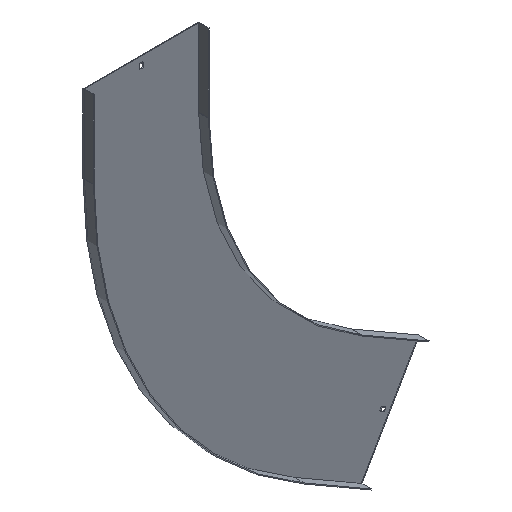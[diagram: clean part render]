
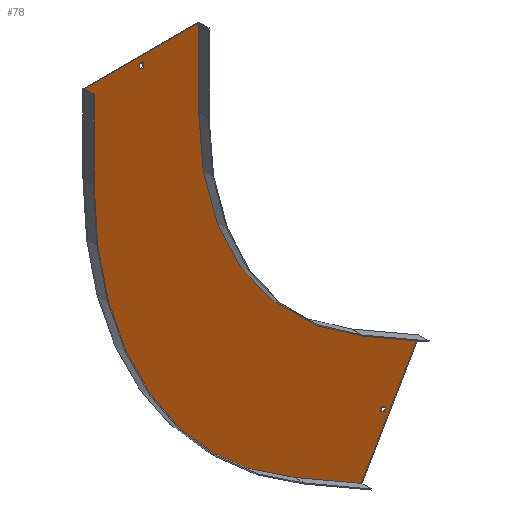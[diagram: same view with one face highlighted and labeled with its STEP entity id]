
A CAD part, isometric view. The second image highlights one B-rep face of the part: STEP entity #78.
In plain terms, the highlighted planar face has unit normal (0, -1, 0).
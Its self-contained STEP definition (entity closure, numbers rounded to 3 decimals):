
#7 = CARTESIAN_POINT ( 'NONE',  ( -405., -1.5, -701.481 ) ) ;
#21 = VERTEX_POINT ( 'NONE', #592 ) ;
#23 = VERTEX_POINT ( 'NONE', #710 ) ;
#28 = CARTESIAN_POINT ( 'NONE',  ( -590., -1.5, 0. ) ) ;
#32 = ORIENTED_EDGE ( 'NONE', *, *, #247, .F. ) ;
#33 = VECTOR ( 'NONE', #802, 1000. ) ;
#38 = ORIENTED_EDGE ( 'NONE', *, *, #188, .F. ) ;
#40 = EDGE_CURVE ( 'NONE', #23, #830, #58, .T. ) ;
#42 = ORIENTED_EDGE ( 'NONE', *, *, #444, .F. ) ;
#44 = VECTOR ( 'NONE', #737, 1000. ) ;
#54 = EDGE_CURVE ( 'NONE', #576, #401, #523, .T. ) ;
#58 = LINE ( 'NONE', #248, #146 ) ;
#62 = CARTESIAN_POINT ( 'NONE',  ( -275.096, -1.5, -776.481 ) ) ;
#78 = ADVANCED_FACE ( 'NONE', ( #454, #665, #237 ), #858, .T. ) ;
#88 = VERTEX_POINT ( 'NONE', #187 ) ;
#104 = DIRECTION ( 'NONE',  ( -1., 0., 0. ) ) ;
#121 = VECTOR ( 'NONE', #520, 1000. ) ;
#146 = VECTOR ( 'NONE', #104, 1000. ) ;
#182 = CARTESIAN_POINT ( 'NONE',  ( 119.512, -1.5, -69. ) ) ;
#185 = LINE ( 'NONE', #461, #196 ) ;
#186 = CARTESIAN_POINT ( 'NONE',  ( -295., -1.5, -510.955 ) ) ;
#187 = CARTESIAN_POINT ( 'NONE',  ( -228.863, -1.5, -672.403 ) ) ;
#188 = EDGE_CURVE ( 'NONE', #359, #449, #202, .T. ) ;
#196 = VECTOR ( 'NONE', #656, 1000. ) ;
#197 = DIRECTION ( 'NONE',  ( -0.5, 0., -0.866 ) ) ;
#202 = LINE ( 'NONE', #601, #44 ) ;
#204 = ORIENTED_EDGE ( 'NONE', *, *, #267, .F. ) ;
#210 = VERTEX_POINT ( 'NONE', #186 ) ;
#237 = FACE_BOUND ( 'NONE', #422, .T. ) ;
#247 = EDGE_CURVE ( 'NONE', #21, #359, #385, .T. ) ;
#248 = CARTESIAN_POINT ( 'NONE',  ( 0., -1.5, 129. ) ) ;
#253 = CARTESIAN_POINT ( 'NONE',  ( -295., -1.5, -510.955 ) ) ;
#258 = VECTOR ( 'NONE', #860, 1000. ) ;
#262 = LINE ( 'NONE', #535, #323 ) ;
#267 = EDGE_CURVE ( 'NONE', #210, #497, #787, .T. ) ;
#269 = CARTESIAN_POINT ( 'NONE',  ( -348.375, -1.5, -603.403 ) ) ;
#272 = CARTESIAN_POINT ( 'NONE',  ( 0., -1.5, 138. ) ) ;
#284 = ORIENTED_EDGE ( 'NONE', *, *, #54, .F. ) ;
#286 = CARTESIAN_POINT ( 'NONE',  ( -703.25, -1.5, 129. ) ) ;
#292 = CIRCLE ( 'NONE', #579, 590. ) ;
#296 = DIRECTION ( 'NONE',  ( 0., 0., -1. ) ) ;
#319 = VECTOR ( 'NONE', #329, 1000. ) ;
#320 = EDGE_CURVE ( 'NONE', #88, #778, #407, .T. ) ;
#322 = EDGE_CURVE ( 'NONE', #778, #583, #549, .T. ) ;
#323 = VECTOR ( 'NONE', #540, 1000. ) ;
#328 = LINE ( 'NONE', #412, #33 ) ;
#329 = DIRECTION ( 'NONE',  ( 1., 0., 0. ) ) ;
#335 = VECTOR ( 'NONE', #353, 1000. ) ;
#343 = DIRECTION ( 'NONE',  ( 1., 0., 0. ) ) ;
#353 = DIRECTION ( 'NONE',  ( -0.866, 0., 0.5 ) ) ;
#359 = VERTEX_POINT ( 'NONE', #736 ) ;
#364 = ORIENTED_EDGE ( 'NONE', *, *, #573, .F. ) ;
#371 = ORIENTED_EDGE ( 'NONE', *, *, #727, .F. ) ;
#383 = DIRECTION ( 'NONE',  ( 0., -1., 0. ) ) ;
#384 = ORIENTED_EDGE ( 'NONE', *, *, #764, .T. ) ;
#385 = LINE ( 'NONE', #857, #319 ) ;
#387 = EDGE_CURVE ( 'NONE', #419, #23, #417, .T. ) ;
#393 = ORIENTED_EDGE ( 'NONE', *, *, #320, .F. ) ;
#401 = VERTEX_POINT ( 'NONE', #7 ) ;
#407 = LINE ( 'NONE', #269, #335 ) ;
#411 = VECTOR ( 'NONE', #610, 1000. ) ;
#412 = CARTESIAN_POINT ( 'NONE',  ( -810., -1.5, 0. ) ) ;
#417 = LINE ( 'NONE', #536, #411 ) ;
#419 = VERTEX_POINT ( 'NONE', #820 ) ;
#422 = EDGE_LOOP ( 'NONE', ( #384, #571, #436, #776 ) ) ;
#427 = DIRECTION ( 'NONE',  ( 0., 1., 0. ) ) ;
#428 = VERTEX_POINT ( 'NONE', #575 ) ;
#436 = ORIENTED_EDGE ( 'NONE', *, *, #40, .T. ) ;
#444 = EDGE_CURVE ( 'NONE', #449, #210, #292, .T. ) ;
#446 = CARTESIAN_POINT ( 'NONE',  ( -239.908, -1.5, -673.532 ) ) ;
#449 = VERTEX_POINT ( 'NONE', #28 ) ;
#454 = FACE_BOUND ( 'NONE', #467, .T. ) ;
#461 = CARTESIAN_POINT ( 'NONE',  ( -351.625, -1.5, -609.032 ) ) ;
#463 = ORIENTED_EDGE ( 'NONE', *, *, #636, .F. ) ;
#464 = LINE ( 'NONE', #182, #121 ) ;
#465 = VECTOR ( 'NONE', #533, 1000. ) ;
#467 = EDGE_LOOP ( 'NONE', ( #393, #364, #463, #556 ) ) ;
#468 = CARTESIAN_POINT ( 'NONE',  ( -236.658, -1.5, -667.903 ) ) ;
#480 = ORIENTED_EDGE ( 'NONE', *, *, #752, .F. ) ;
#493 = DIRECTION ( 'NONE',  ( 0., 0., 1. ) ) ;
#497 = VERTEX_POINT ( 'NONE', #707 ) ;
#520 = DIRECTION ( 'NONE',  ( 0.5, 0., 0.866 ) ) ;
#523 = LINE ( 'NONE', #62, #258 ) ;
#526 = VECTOR ( 'NONE', #493, 1000. ) ;
#533 = DIRECTION ( 'NONE',  ( 0.866, 0., -0.5 ) ) ;
#535 = CARTESIAN_POINT ( 'NONE',  ( -164.346, -1.5, -584.656 ) ) ;
#536 = CARTESIAN_POINT ( 'NONE',  ( -696.75, -1.5, 0. ) ) ;
#540 = DIRECTION ( 'NONE',  ( -0.5, 0., -0.866 ) ) ;
#549 = LINE ( 'NONE', #685, #743 ) ;
#556 = ORIENTED_EDGE ( 'NONE', *, *, #322, .F. ) ;
#564 = ORIENTED_EDGE ( 'NONE', *, *, #813, .F. ) ;
#571 = ORIENTED_EDGE ( 'NONE', *, *, #387, .T. ) ;
#573 = EDGE_CURVE ( 'NONE', #790, #88, #464, .T. ) ;
#575 = CARTESIAN_POINT ( 'NONE',  ( -703.25, -1.5, 138. ) ) ;
#576 = VERTEX_POINT ( 'NONE', #729 ) ;
#579 = AXIS2_PLACEMENT_3D ( 'NONE', #695, #632, #703 ) ;
#583 = VERTEX_POINT ( 'NONE', #446 ) ;
#592 = CARTESIAN_POINT ( 'NONE',  ( -810., -1.5, 150. ) ) ;
#599 = CARTESIAN_POINT ( 'NONE',  ( -810., -1.5, 0. ) ) ;
#601 = CARTESIAN_POINT ( 'NONE',  ( -590., -1.5, 150. ) ) ;
#603 = AXIS2_PLACEMENT_3D ( 'NONE', #781, #383, #793 ) ;
#606 = VECTOR ( 'NONE', #343, 1000. ) ;
#610 = DIRECTION ( 'NONE',  ( 0., 0., -1. ) ) ;
#613 = CARTESIAN_POINT ( 'NONE',  ( -232.113, -1.5, -678.032 ) ) ;
#632 = DIRECTION ( 'NONE',  ( 0., -1., 0. ) ) ;
#636 = EDGE_CURVE ( 'NONE', #583, #790, #185, .T. ) ;
#656 = DIRECTION ( 'NONE',  ( 0.866, 0., -0.5 ) ) ;
#665 = FACE_OUTER_BOUND ( 'NONE', #847, .T. ) ;
#684 = LINE ( 'NONE', #272, #606 ) ;
#685 = CARTESIAN_POINT ( 'NONE',  ( 111.717, -1.5, -64.5 ) ) ;
#695 = CARTESIAN_POINT ( 'NONE',  ( 0., -1.5, 0. ) ) ;
#703 = DIRECTION ( 'NONE',  ( 0., 0., -1. ) ) ;
#707 = CARTESIAN_POINT ( 'NONE',  ( -165.096, -1.5, -585.955 ) ) ;
#710 = CARTESIAN_POINT ( 'NONE',  ( -696.75, -1.5, 129. ) ) ;
#717 = CIRCLE ( 'NONE', #831, 810. ) ;
#727 = EDGE_CURVE ( 'NONE', #497, #576, #262, .T. ) ;
#729 = CARTESIAN_POINT ( 'NONE',  ( -275.096, -1.5, -776.481 ) ) ;
#736 = CARTESIAN_POINT ( 'NONE',  ( -590., -1.5, 150. ) ) ;
#737 = DIRECTION ( 'NONE',  ( 0., 0., -1. ) ) ;
#743 = VECTOR ( 'NONE', #197, 1000. ) ;
#752 = EDGE_CURVE ( 'NONE', #762, #21, #328, .T. ) ;
#757 = CARTESIAN_POINT ( 'NONE',  ( -703.25, -1.5, 0. ) ) ;
#762 = VERTEX_POINT ( 'NONE', #599 ) ;
#764 = EDGE_CURVE ( 'NONE', #428, #419, #684, .T. ) ;
#773 = CARTESIAN_POINT ( 'NONE',  ( 0., -1.5, 0. ) ) ;
#776 = ORIENTED_EDGE ( 'NONE', *, *, #816, .T. ) ;
#778 = VERTEX_POINT ( 'NONE', #468 ) ;
#781 = CARTESIAN_POINT ( 'NONE',  ( 0., -1.5, 0. ) ) ;
#787 = LINE ( 'NONE', #253, #465 ) ;
#790 = VERTEX_POINT ( 'NONE', #613 ) ;
#793 = DIRECTION ( 'NONE',  ( 0., 0., -1. ) ) ;
#802 = DIRECTION ( 'NONE',  ( 0., 0., 1. ) ) ;
#813 = EDGE_CURVE ( 'NONE', #401, #762, #717, .T. ) ;
#816 = EDGE_CURVE ( 'NONE', #830, #428, #822, .T. ) ;
#820 = CARTESIAN_POINT ( 'NONE',  ( -696.75, -1.5, 138. ) ) ;
#822 = LINE ( 'NONE', #757, #526 ) ;
#830 = VERTEX_POINT ( 'NONE', #286 ) ;
#831 = AXIS2_PLACEMENT_3D ( 'NONE', #773, #427, #296 ) ;
#847 = EDGE_LOOP ( 'NONE', ( #32, #480, #564, #284, #371, #204, #42, #38 ) ) ;
#857 = CARTESIAN_POINT ( 'NONE',  ( -811.5, -1.5, 150. ) ) ;
#858 = PLANE ( 'NONE',  #603 ) ;
#860 = DIRECTION ( 'NONE',  ( -0.866, 0., 0.5 ) ) ;
